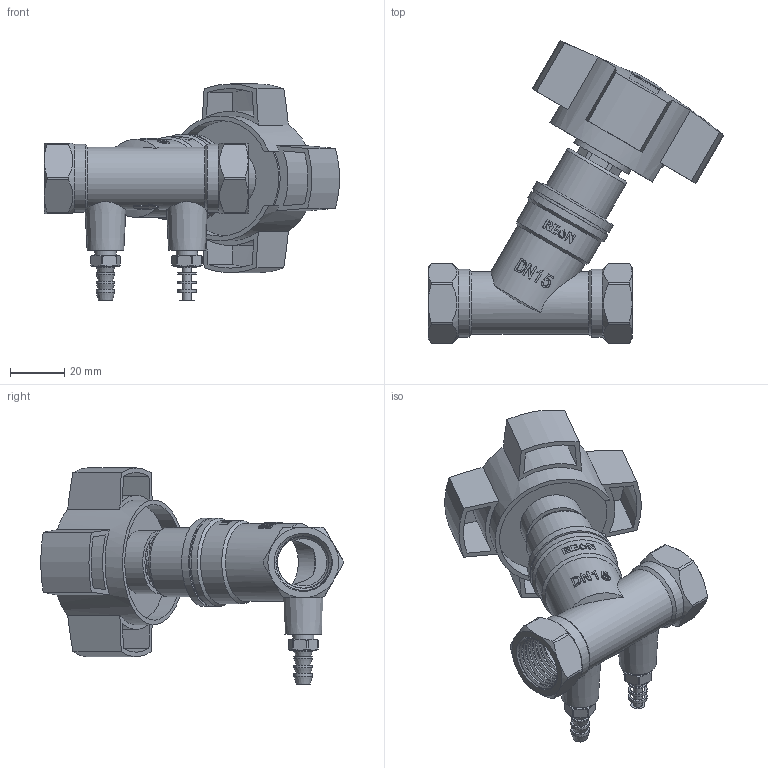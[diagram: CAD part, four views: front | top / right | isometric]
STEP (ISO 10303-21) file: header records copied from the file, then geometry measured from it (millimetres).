
FILE_DESCRIPTION(/* description */ ('STEP AP203'),/* implementation_level */ '2;1');
FILE_NAME(/* name */ 'RSV54-DN15.stp',/* time_stamp */ '2024-12-12T15:04:14+07:00',/* author */ ('Eva'),/* organization */ (''),/* preprocessor_version */ 'ST-DEVELOPER v20',/* originating_system */ 'Autodesk Inventor 2025',/* authorisation */ '');
FILE_SCHEMA (('AUTOMOTIVE_DESIGN { 1 0 10303 214 3 1 1 }'));
Length unit declared in the file: metre
Products named in the file (1): ZL-6602-1£¯2-00 Æ½ºâ·§
Bounding box: 108.7 x 111.34 x 79.55 mm (x, y, z)
Volume: 92563.8 mm3; surface area: 58150.3 mm2
Topology: 16 solids, 16 shells, 859 faces, 2217 edges, 1448 vertices
Faces by surface type: cylinder 338, plane 290, cone 107, bspline 97, sphere 14, torus 13
Full cylindrical faces by diameter (mm): 1.4 x2, 2 x2, 3.3 x2, 4 x2, 4.1 x5, 4.2 x8, 5 x14, 6 x1, 6.2 x2, 6.5 x1, 6.7 x2, 6.75 x12, 6.8 x8, 7 x1, 7.8 x2, 8 x10, 8.1 x1, 8.9 x2, 9.5 x1, 9.8 x2, 10 x3, 10.5 x21, 10.6 x1, 12 x26, 12.5 x1, 13.5 x1, 14 x1, 16.5 x1, 16.8 x1, 18 x1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
Entity records: 51829 total; most frequent: CARTESIAN_POINT 32011, ORIENTED_EDGE 4426, DIRECTION 3727, EDGE_CURVE 2213, VERTEX_POINT 1448, AXIS2_PLACEMENT_3D 1433, EDGE_LOOP 949, LINE 861
